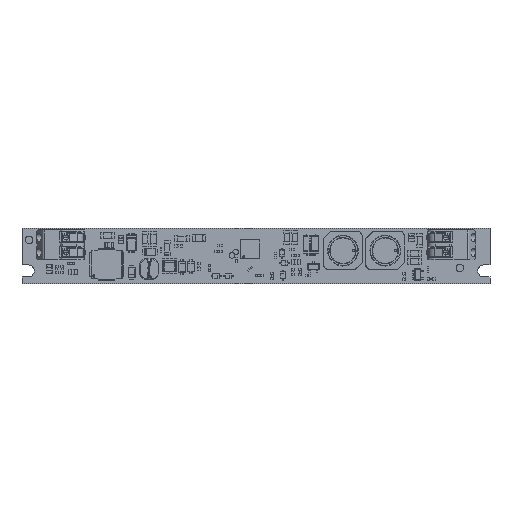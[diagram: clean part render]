
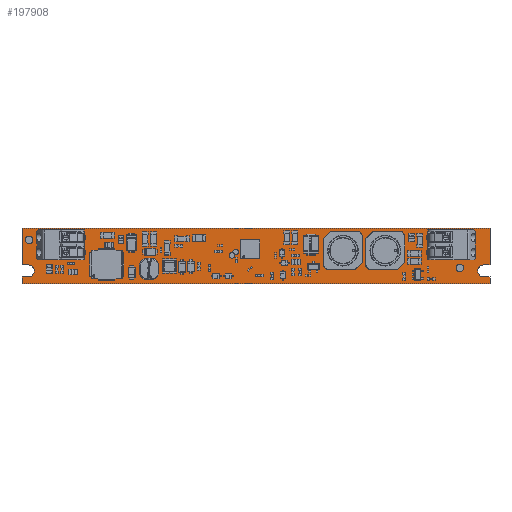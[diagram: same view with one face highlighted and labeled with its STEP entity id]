
A CAD part, top view. The second image highlights one B-rep face of the part: STEP entity #197908.
In plain terms, the highlighted free-form (B-spline) face has degree [3, 3] with [4, 4] control points.
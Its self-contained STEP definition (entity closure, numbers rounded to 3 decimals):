
#197443=DIRECTION('',(0.,-1.,0.));
#197444=VECTOR('',#197443,9.8);
#197445=CARTESIAN_POINT('',(-1.7,11.4,1.6));
#197446=LINE('',#197445,#197444);
#197447=DIRECTION('',(-1.,0.,0.));
#197448=VECTOR('',#197447,125.);
#197449=CARTESIAN_POINT('',(123.3,11.4,1.6));
#197450=LINE('',#197449,#197448);
#197451=DIRECTION('',(0.,1.,0.));
#197452=VECTOR('',#197451,9.8);
#197453=CARTESIAN_POINT('',(123.3,1.6,1.6));
#197454=LINE('',#197453,#197452);
#197455=DIRECTION('',(1.,0.,0.));
#197456=VECTOR('',#197455,1.7);
#197457=CARTESIAN_POINT('',(121.6,1.6,1.6));
#197458=LINE('',#197457,#197456);
#197459=CARTESIAN_POINT('',(121.6,0.,1.6));
#197460=DIRECTION('',(0.,0.,-1.));
#197461=DIRECTION('',(0.,-1.,0.));
#197462=AXIS2_PLACEMENT_3D('',#197459,#197460,#197461);
#197464=DIRECTION('',(-1.,0.,0.));
#197465=VECTOR('',#197464,1.7);
#197466=CARTESIAN_POINT('',(123.3,-1.6,1.6));
#197467=LINE('',#197466,#197465);
#197468=DIRECTION('',(0.,1.,0.));
#197469=VECTOR('',#197468,1.8);
#197470=CARTESIAN_POINT('',(123.3,-3.4,1.6));
#197471=LINE('',#197470,#197469);
#197472=DIRECTION('',(1.,0.,0.));
#197473=VECTOR('',#197472,125.);
#197474=CARTESIAN_POINT('',(-1.7,-3.4,1.6));
#197475=LINE('',#197474,#197473);
#197476=DIRECTION('',(0.,-1.,0.));
#197477=VECTOR('',#197476,1.8);
#197478=CARTESIAN_POINT('',(-1.7,-1.6,1.6));
#197479=LINE('',#197478,#197477);
#197480=DIRECTION('',(-1.,0.,0.));
#197481=VECTOR('',#197480,1.7);
#197482=CARTESIAN_POINT('',(0.,-1.6,1.6));
#197483=LINE('',#197482,#197481);
#197484=CARTESIAN_POINT('',(0.,0.,1.6));
#197485=DIRECTION('',(0.,0.,-1.));
#197486=DIRECTION('',(0.,1.,0.));
#197487=AXIS2_PLACEMENT_3D('',#197484,#197485,#197486);
#197489=DIRECTION('',(1.,0.,0.));
#197490=VECTOR('',#197489,1.7);
#197491=CARTESIAN_POINT('',(-1.7,1.6,1.6));
#197492=LINE('',#197491,#197490);
#197494=CARTESIAN_POINT('',(-1.7,11.4,1.6));
#197496=VERTEX_POINT('',#197494);
#197497=CARTESIAN_POINT('',(-1.7,1.6,1.6));
#197498=VERTEX_POINT('',#197497);
#197502=CARTESIAN_POINT('',(123.3,11.4,1.6));
#197504=VERTEX_POINT('',#197502);
#197506=CARTESIAN_POINT('',(123.3,1.6,1.6));
#197508=VERTEX_POINT('',#197506);
#197510=CARTESIAN_POINT('',(121.6,1.6,1.6));
#197512=VERTEX_POINT('',#197510);
#197514=CARTESIAN_POINT('',(121.6,-1.6,1.6));
#197516=VERTEX_POINT('',#197514);
#197518=CARTESIAN_POINT('',(123.3,-1.6,1.6));
#197520=VERTEX_POINT('',#197518);
#197522=CARTESIAN_POINT('',(123.3,-3.4,1.6));
#197524=VERTEX_POINT('',#197522);
#197526=CARTESIAN_POINT('',(-1.7,-3.4,1.6));
#197528=VERTEX_POINT('',#197526);
#197530=CARTESIAN_POINT('',(-1.7,-1.6,1.6));
#197532=VERTEX_POINT('',#197530);
#197534=CARTESIAN_POINT('',(0.,-1.6,1.6));
#197536=VERTEX_POINT('',#197534);
#197538=CARTESIAN_POINT('',(0.,1.6,1.6));
#197540=VERTEX_POINT('',#197538);
#197877=CARTESIAN_POINT('',(-4.2,-3.696,1.6));
#197878=CARTESIAN_POINT('',(-4.2,1.435,1.6));
#197879=CARTESIAN_POINT('',(-4.2,6.565,1.6));
#197880=CARTESIAN_POINT('',(-4.2,11.696,1.6));
#197881=CARTESIAN_POINT('',(39.133,-3.696,1.6));
#197882=CARTESIAN_POINT('',(39.133,1.435,1.6));
#197883=CARTESIAN_POINT('',(39.133,6.565,1.6));
#197884=CARTESIAN_POINT('',(39.133,11.696,1.6));
#197885=CARTESIAN_POINT('',(82.467,-3.696,1.6));
#197886=CARTESIAN_POINT('',(82.467,1.435,1.6));
#197887=CARTESIAN_POINT('',(82.467,6.565,1.6));
#197888=CARTESIAN_POINT('',(82.467,11.696,1.6));
#197889=CARTESIAN_POINT('',(125.8,-3.696,1.6));
#197890=CARTESIAN_POINT('',(125.8,1.435,1.6));
#197891=CARTESIAN_POINT('',(125.8,6.565,1.6));
#197892=CARTESIAN_POINT('',(125.8,11.696,1.6));
#197893=B_SPLINE_SURFACE_WITH_KNOTS('',3,3,((#197877,#197878,#197879,#197880),(
#197881,#197882,#197883,#197884),(#197885,#197886,#197887,#197888),(#197889,
#197890,#197891,#197892)),.UNSPECIFIED.,.F.,.F.,.F.,(4,4),(4,4),(-65.,65.),(
-7.558,7.834),.UNSPECIFIED.);
#197894=ORIENTED_EDGE('',*,*,#197604,.F.);
#197895=ORIENTED_EDGE('',*,*,#197631,.F.);
#197896=ORIENTED_EDGE('',*,*,#197657,.F.);
#197897=ORIENTED_EDGE('',*,*,#197683,.F.);
#197898=ORIENTED_EDGE('',*,*,#197699,.F.);
#197899=ORIENTED_EDGE('',*,*,#197725,.F.);
#197900=ORIENTED_EDGE('',*,*,#197751,.F.);
#197901=ORIENTED_EDGE('',*,*,#197777,.F.);
#197902=ORIENTED_EDGE('',*,*,#197803,.F.);
#197903=ORIENTED_EDGE('',*,*,#197829,.F.);
#197904=ORIENTED_EDGE('',*,*,#197845,.F.);
#197905=ORIENTED_EDGE('',*,*,#197870,.F.);
#197906=EDGE_LOOP('',(#197894,#197895,#197896,#197897,#197898,#197899,#197900,
#197901,#197902,#197903,#197904,#197905));
#197907=FACE_OUTER_BOUND('',#197906,.F.);
#197908=ADVANCED_FACE('',(#197907),#197893,.T.);
#197463=CIRCLE('',#197462,1.6);
#197488=CIRCLE('',#197487,1.6);
#197604=EDGE_CURVE('',#197496,#197498,#197446,.T.);
#197631=EDGE_CURVE('',#197504,#197496,#197450,.T.);
#197657=EDGE_CURVE('',#197508,#197504,#197454,.T.);
#197683=EDGE_CURVE('',#197512,#197508,#197458,.T.);
#197699=EDGE_CURVE('',#197516,#197512,#197463,.T.);
#197725=EDGE_CURVE('',#197520,#197516,#197467,.T.);
#197751=EDGE_CURVE('',#197524,#197520,#197471,.T.);
#197777=EDGE_CURVE('',#197528,#197524,#197475,.T.);
#197803=EDGE_CURVE('',#197532,#197528,#197479,.T.);
#197829=EDGE_CURVE('',#197536,#197532,#197483,.T.);
#197845=EDGE_CURVE('',#197540,#197536,#197488,.T.);
#197870=EDGE_CURVE('',#197498,#197540,#197492,.T.);
